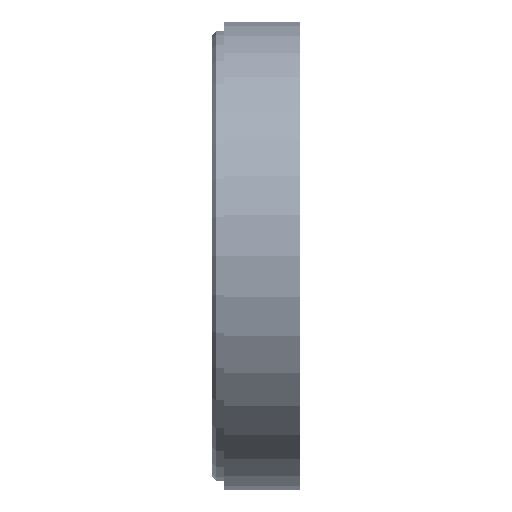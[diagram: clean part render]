
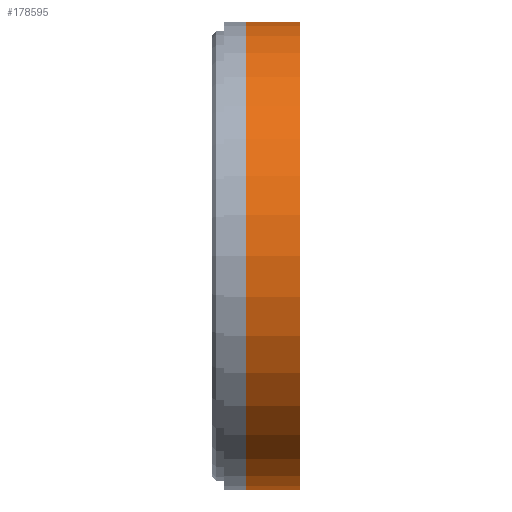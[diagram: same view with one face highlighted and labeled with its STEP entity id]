
A CAD part, left-side view. The second image highlights one B-rep face of the part: STEP entity #178595.
In plain terms, the highlighted cylindrical face has radius 31.75 mm (diameter 63.5 mm), a partial arc.
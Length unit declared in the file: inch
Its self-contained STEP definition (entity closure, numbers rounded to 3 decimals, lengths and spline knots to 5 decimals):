
#6477 = EDGE_CURVE ( 'NONE', #241883, #79576, #188360, .T. ) ;
#9919 = CARTESIAN_POINT ( 'NONE',  ( 0., 0., 0. ) ) ;
#15660 = EDGE_LOOP ( 'NONE', ( #36196, #187091, #143471, #172281 ) ) ;
#16099 = CARTESIAN_POINT ( 'NONE',  ( 0., -3.53553, 1.25 ) ) ;
#20843 = CARTESIAN_POINT ( 'NONE',  ( 0., 0., 1.25 ) ) ;
#36196 = ORIENTED_EDGE ( 'NONE', *, *, #6477, .F. ) ;
#42313 = CARTESIAN_POINT ( 'NONE',  ( 0., 0.285, 0. ) ) ;
#49181 = DIRECTION ( 'NONE',  ( 0., 0., 1. ) ) ;
#55597 = VERTEX_POINT ( 'NONE', #20843 ) ;
#65717 = DIRECTION ( 'NONE',  ( 0., 0., 1. ) ) ;
#66297 = EDGE_CURVE ( 'NONE', #55597, #241883, #179452, .T. ) ;
#66643 = CARTESIAN_POINT ( 'NONE',  ( 0., 0.285, -1.25 ) ) ;
#70673 = DIRECTION ( 'NONE',  ( 0., 0., 1. ) ) ;
#75488 = FACE_OUTER_BOUND ( 'NONE', #15660, .T. ) ;
#79576 = VERTEX_POINT ( 'NONE', #66643 ) ;
#80728 = CARTESIAN_POINT ( 'NONE',  ( 0., 0.285, 1.25 ) ) ;
#108169 = CARTESIAN_POINT ( 'NONE',  ( 0., -3.53553, 0. ) ) ;
#115528 = AXIS2_PLACEMENT_3D ( 'NONE', #42313, #229803, #65717 ) ;
#127526 = AXIS2_PLACEMENT_3D ( 'NONE', #9919, #225552, #49181 ) ;
#129274 = VECTOR ( 'NONE', #210439, 39.37008 ) ;
#142739 = LINE ( 'NONE', #16099, #281299 ) ;
#143471 = ORIENTED_EDGE ( 'NONE', *, *, #256362, .T. ) ;
#167523 = CIRCLE ( 'NONE', #115528, 1.25 ) ;
#172281 = ORIENTED_EDGE ( 'NONE', *, *, #283749, .F. ) ;
#176358 = CARTESIAN_POINT ( 'NONE',  ( 0., 0., -1.25 ) ) ;
#176903 = AXIS2_PLACEMENT_3D ( 'NONE', #108169, #234733, #70673 ) ;
#178595 = ADVANCED_FACE ( 'NONE', ( #75488 ), #183188, .T. ) ;
#179452 = CIRCLE ( 'NONE', #127526, 1.25 ) ;
#180139 = DIRECTION ( 'NONE',  ( 0., 1., 0. ) ) ;
#183188 = CYLINDRICAL_SURFACE ( 'NONE', #176903, 1.25 ) ;
#187091 = ORIENTED_EDGE ( 'NONE', *, *, #66297, .F. ) ;
#188360 = LINE ( 'NONE', #219462, #129274 ) ;
#196600 = VERTEX_POINT ( 'NONE', #80728 ) ;
#210439 = DIRECTION ( 'NONE',  ( 0., 1., 0. ) ) ;
#219462 = CARTESIAN_POINT ( 'NONE',  ( 0., -3.53553, -1.25 ) ) ;
#225552 = DIRECTION ( 'NONE',  ( 0., -1., 0. ) ) ;
#229803 = DIRECTION ( 'NONE',  ( 0., 1., 0. ) ) ;
#234733 = DIRECTION ( 'NONE',  ( 0., 1., 0. ) ) ;
#241883 = VERTEX_POINT ( 'NONE', #176358 ) ;
#256362 = EDGE_CURVE ( 'NONE', #55597, #196600, #142739, .T. ) ;
#281299 = VECTOR ( 'NONE', #180139, 39.37008 ) ;
#283749 = EDGE_CURVE ( 'NONE', #79576, #196600, #167523, .T. ) ;
